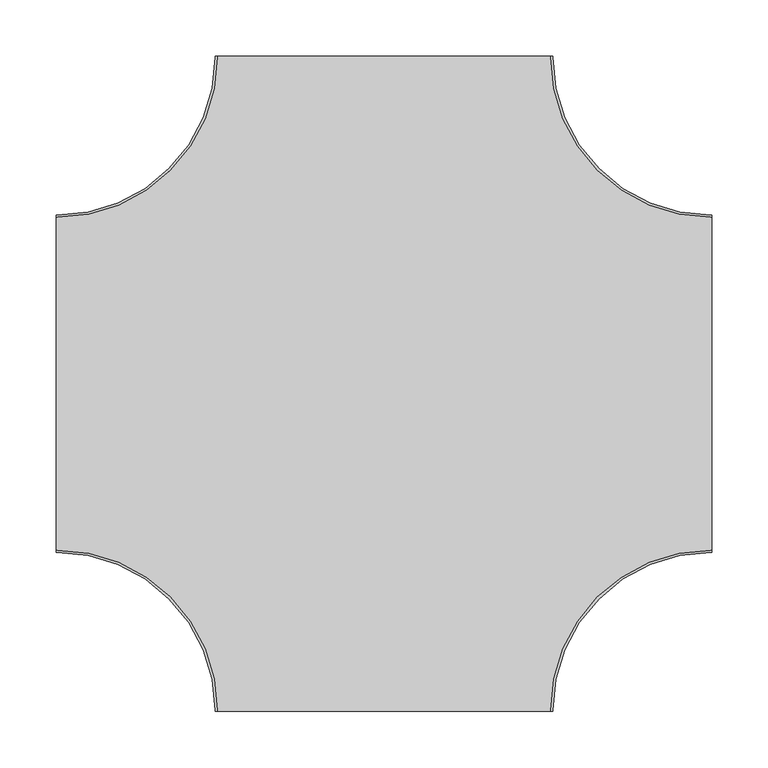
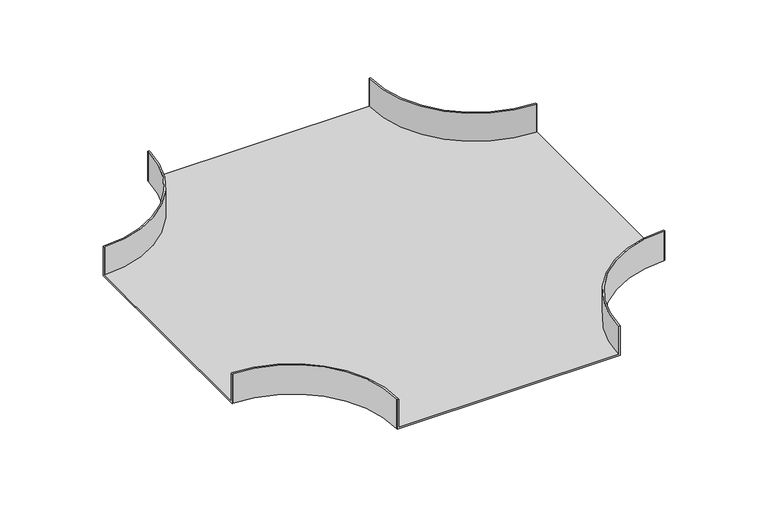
"""IFC4 building model written with IfcOpenShell, lengths in millimetres: cable carrier fitting geometry, BAKS_Horizontal cross over radius : CZKPJ_H42."""

from ifc_helpers import new_model, si_unit, frame, origin, place, context, project, spatial, polyline, circle_curve, source, transform, mapped, element, save
from ifc_brep_helpers import plane_surface, cylinder_surface, revolved_surface, advanced_brep


def cable_carrier_fitting_5d3ac796(model_context):
    return source(origin(), model_context, "Body", "AdvancedBrep", [
        advanced_brep(
        [(-150.0, -290.0, 21.0), (-150.0, -291.0, 21.0), (-148.0, -291.0, 21.0), (-148.0, -290.0, 21.0), (-290.0, -148.0, 21.0), (-291.0, -148.0, 21.0), (-291.0, -150.0, 21.0), (-290.0, -150.0, 21.0), (150.0, -290.0, 21.0), (290.0, -150.0, 21.0), (291.0, -150.0, 21.0), (291.0, -148.0, 21.0), (290.0, -148.0, 21.0), (148.0, -290.0, 21.0), (148.0, -291.0, 21.0), (150.0, -291.0, 21.0), (-290.0, 150.0, 21.0), (-291.0, 150.0, 21.0), (-291.0, 148.0, 21.0), (-290.0, 148.0, 21.0), (-148.0, 290.0, 21.0), (-148.0, 291.0, 21.0), (-150.0, 291.0, 21.0), (-150.0, 290.0, 21.0), (148.0, 290.0, 21.0), (290.0, 148.0, 21.0), (291.0, 148.0, 21.0), (291.0, 150.0, 21.0), (290.0, 150.0, 21.0), (150.0, 290.0, 21.0), (150.0, 291.0, 21.0), (148.0, 291.0, 21.0), (-150.0, -290.0, -21.0), (-290.0, -150.0, -21.0), (-291.0, -150.0, -21.0), (-291.0, 150.0, -21.0), (-290.0, 150.0, -21.0), (-150.0, 290.0, -21.0), (-150.0, 291.0, -21.0), (150.0, 291.0, -21.0), (150.0, 290.0, -21.0), (290.0, 150.0, -21.0), (291.0, 150.0, -21.0), (291.0, -150.0, -21.0), (290.0, -150.0, -21.0), (150.0, -290.0, -21.0), (150.0, -291.0, -21.0), (-150.0, -291.0, -21.0), (-150.0, -290.0, -19.0), (148.0, -291.0, -19.0), (-148.0, -291.0, -19.0), (-148.0, -290.0, -19.0), (-290.0, -148.0, -19.0), (-291.0, -148.0, -19.0), (-291.0, 148.0, -19.0), (-290.0, -150.0, -19.0), (150.0, -290.0, -19.0), (290.0, -150.0, -19.0), (291.0, 148.0, -19.0), (291.0, -148.0, -19.0), (290.0, -148.0, -19.0), (148.0, -290.0, -19.0), (290.0, 148.0, -19.0), (148.0, 290.0, -19.0), (148.0, 291.0, -19.0), (-148.0, 291.0, -19.0), (-148.0, 290.0, -19.0), (-290.0, 148.0, -19.0), (-290.0, 150.0, -19.0), (-150.0, 290.0, -19.0), (290.0, 150.0, -19.0), (150.0, 290.0, -19.0)],
        [
            (0, 1),
            (1, 2),
            (2, 3),
            (3, 4, circle_curve(frame((-290.0, -290.0, 21.0), z_axis=(0.0, 0.0, 1.0), x_axis=(1.0, 0.0, 0.0)), 142.0)),
            (4, 5),
            (5, 6),
            (6, 7),
            (7, 0, circle_curve(frame((-290.0, -290.0, 21.0), z_axis=(0.0, 0.0, -1.0), x_axis=(1.0, 0.0, 0.0)), 140.0)),
            (8, 9, circle_curve(frame((290.0, -290.0, 21.0), z_axis=(0.0, 0.0, -1.0), x_axis=(1.0, 0.0, 0.0)), 140.0)),
            (9, 10),
            (10, 11),
            (11, 12),
            (12, 13, circle_curve(frame((290.0, -290.0, 21.0), z_axis=(0.0, 0.0, 1.0), x_axis=(1.0, 0.0, 0.0)), 142.0)),
            (13, 14),
            (14, 15),
            (15, 8),
            (16, 17),
            (17, 18),
            (18, 19),
            (19, 20, circle_curve(frame((-290.0, 290.0, 21.0), z_axis=(0.0, 0.0, 1.0), x_axis=(1.0, 0.0, 0.0)), 142.0)),
            (20, 21),
            (21, 22),
            (22, 23),
            (23, 16, circle_curve(frame((-290.0, 290.0, 21.0), z_axis=(0.0, 0.0, -1.0), x_axis=(1.0, 0.0, 0.0)), 140.0)),
            (24, 25, circle_curve(frame((290.0, 290.0, 21.0), z_axis=(0.0, 0.0, 1.0), x_axis=(1.0, 0.0, 0.0)), 142.0)),
            (25, 26),
            (26, 27),
            (27, 28),
            (28, 29, circle_curve(frame((290.0, 290.0, 21.0), z_axis=(0.0, 0.0, -1.0), x_axis=(1.0, 0.0, 0.0)), 140.0)),
            (29, 30),
            (30, 31),
            (31, 24),
            (32, 33, circle_curve(frame((-290.0, -290.0, -21.0), z_axis=(0.0, 0.0, 1.0), x_axis=(1.0, 0.0, 0.0)), 140.0)),
            (33, 34),
            (34, 35),
            (35, 36),
            (36, 37, circle_curve(frame((-290.0, 290.0, -21.0), z_axis=(0.0, 0.0, 1.0), x_axis=(1.0, 0.0, 0.0)), 140.0)),
            (37, 38),
            (38, 39),
            (39, 40),
            (40, 41, circle_curve(frame((290.0, 290.0, -21.0), z_axis=(0.0, 0.0, 1.0), x_axis=(1.0, 0.0, 0.0)), 140.0)),
            (41, 42),
            (42, 43),
            (43, 44),
            (44, 45, circle_curve(frame((290.0, -290.0, -21.0), z_axis=(0.0, 0.0, 1.0), x_axis=(1.0, 0.0, 0.0)), 140.0)),
            (45, 46),
            (46, 47),
            (47, 32),
            (47, 1),
            (0, 48),
            (48, 32),
            (46, 15),
            (14, 49),
            (49, 50),
            (50, 2),
            (50, 51),
            (51, 3),
            (51, 52, circle_curve(frame((-290.0, -290.0, -19.0), z_axis=(0.0, 0.0, 1.0), x_axis=(1.0, 0.0, 0.0)), 142.0)),
            (52, 4),
            (52, 53),
            (53, 5),
            (53, 54),
            (54, 18),
            (17, 35),
            (34, 6),
            (33, 55),
            (55, 7),
            (8, 56),
            (56, 45),
            (44, 57),
            (57, 9),
            (43, 10),
            (42, 27),
            (26, 58),
            (58, 59),
            (59, 11),
            (59, 60),
            (60, 12),
            (60, 61, circle_curve(frame((290.0, -290.0, -19.0), z_axis=(0.0, 0.0, 1.0), x_axis=(1.0, 0.0, 0.0)), 142.0)),
            (61, 13),
            (61, 49),
            (58, 62),
            (62, 63, circle_curve(frame((290.0, 290.0, -19.0), z_axis=(0.0, 0.0, -1.0), x_axis=(1.0, 0.0, 0.0)), 142.0)),
            (63, 64),
            (64, 65),
            (65, 66),
            (66, 67, circle_curve(frame((-290.0, 290.0, -19.0), z_axis=(0.0, 0.0, -1.0), x_axis=(1.0, 0.0, 0.0)), 142.0)),
            (67, 54),
            (16, 68),
            (68, 36),
            (67, 19),
            (66, 20),
            (65, 21),
            (64, 31),
            (30, 39),
            (38, 22),
            (37, 69),
            (69, 23),
            (24, 63),
            (62, 25),
            (41, 70),
            (70, 28),
            (40, 71),
            (71, 29),
        ],
        [
            plane_surface(frame((-150.0, -290.0, 21.0), z_axis=(0.0, 0.0, 1.0), x_axis=(0.0, -1.0, 0.0))),
            plane_surface(frame((-150.0, -290.0, -21.0), z_axis=(0.0, 0.0, -1.0), x_axis=(0.0, 1.0, 0.0))),
            plane_surface(frame((-150.0, -290.0, 21.0), z_axis=(-1.0, 0.0, 0.0), x_axis=(0.0, 0.0, -1.0))),
            plane_surface(frame((-150.0, -291.0, 21.0), z_axis=(0.0, -1.0, 0.0), x_axis=(0.0, 0.0, -1.0))),
            plane_surface(frame((-148.0, -291.0, 21.0), z_axis=(1.0, 0.0, 0.0), x_axis=(0.0, 0.0, -1.0))),
            cylinder_surface(frame((-290.0, -290.0, -21.0), z_axis=(0.0, 0.0, 1.0), x_axis=(1.0, 0.0, 0.0)), 142.0),
            plane_surface(frame((-290.0, -148.0, 21.0), z_axis=(0.0, 1.0, 0.0), x_axis=(0.0, 0.0, -1.0))),
            plane_surface(frame((-291.0, -148.0, 21.0), z_axis=(-1.0, 0.0, 0.0), x_axis=(0.0, 0.0, -1.0))),
            plane_surface(frame((-291.0, -150.0, 21.0), z_axis=(2.7410074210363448e-12, -1.0, 0.0), x_axis=(0.0, 0.0, -1.0))),
            revolved_surface(polyline([(-150.0, -290.0, -21.0), (-150.0, -290.0, 21.0)]), (-290.0, -290.0, -21.0), (0.0, 0.0, -1.0)),
            revolved_surface(polyline([(430.0, -290.0, -21.0), (430.0, -290.0, 21.0)]), (290.0, -290.0, 0.0), (0.0, 0.0, -1.0)),
            plane_surface(frame((290.0, -150.0, 21.0), z_axis=(-2.7410074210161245e-12, -1.0, 0.0), x_axis=(0.0, 0.0, -1.0))),
            plane_surface(frame((291.0, -150.0, 21.0), z_axis=(1.0, 0.0, 0.0), x_axis=(0.0, 0.0, -1.0))),
            plane_surface(frame((291.0, -148.0, 21.0), z_axis=(0.0, 1.0, 0.0), x_axis=(0.0, 0.0, -1.0))),
            cylinder_surface(frame((290.0, -290.0, 0.0), z_axis=(0.0, 0.0, 1.0), x_axis=(1.0, 0.0, 0.0)), 142.0),
            plane_surface(frame((148.0, -290.0, 21.0), z_axis=(-1.0, 0.0, 0.0), x_axis=(0.0, 0.0, -1.0))),
            plane_surface(frame((150.0, -291.0, 21.0), z_axis=(1.0, 0.0, 0.0), x_axis=(0.0, 0.0, -1.0))),
            plane_surface(frame((-150.0, -290.0, -19.0), z_axis=(0.0, 0.0, 1.0), x_axis=(1.3705037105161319e-12, -1.0, 0.0))),
            plane_surface(frame((-290.0, 150.0, 21.0), z_axis=(3.632680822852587e-11, 1.0, 0.0), x_axis=(0.0, 0.0, -1.0))),
            plane_surface(frame((-291.0, 148.0, 21.0), z_axis=(-3.884785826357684e-11, -1.0, 0.0), x_axis=(0.0, 0.0, -1.0))),
            cylinder_surface(frame((-290.0, 290.0, 0.0), z_axis=(0.0, 0.0, 1.0), x_axis=(1.0, 0.0, 0.0)), 142.0),
            plane_surface(frame((-148.0, 290.0, 21.0), z_axis=(1.0, -1.6243006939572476e-12, 0.0), x_axis=(0.0, 0.0, -1.0))),
            plane_surface(frame((-148.0, 291.0, 21.0), z_axis=(0.0, 1.0, 0.0), x_axis=(0.0, 0.0, -1.0))),
            plane_surface(frame((-150.0, 291.0, 21.0), z_axis=(-1.0, 1.3705037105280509e-12, 0.0), x_axis=(0.0, 0.0, -1.0))),
            revolved_surface(polyline([(-150.0, 290.0, -21.0), (-150.0, 290.0, 21.0)]), (-290.0, 290.0, 0.0), (0.0, 0.0, -1.0)),
            cylinder_surface(frame((290.0, 290.0, 0.0), z_axis=(0.0, 0.0, 1.0), x_axis=(1.0, 0.0, 0.0)), 142.0),
            plane_surface(frame((290.0, 148.0, 21.0), z_axis=(0.0, -1.0, 0.0), x_axis=(0.0, 0.0, -1.0))),
            plane_surface(frame((291.0, 150.0, 21.0), z_axis=(0.0, 1.0, 0.0), x_axis=(0.0, 0.0, -1.0))),
            revolved_surface(polyline([(430.0, 290.0, -21.0), (430.0, 290.0, 21.0)]), (290.0, 290.0, 0.0), (0.0, 0.0, -1.0)),
            plane_surface(frame((150.0, 290.0, 21.0), z_axis=(1.0, 1.6496803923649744e-11, 0.0), x_axis=(0.0, 0.0, -1.0))),
            plane_surface(frame((148.0, 291.0, 21.0), z_axis=(-1.0, -1.715667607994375e-11, 0.0), x_axis=(0.0, 0.0, -1.0))),
        ],
        [
            (0, [[1, 2, 3, 4, 5, 6, 7, 8]]),
            (0, [[9, 10, 11, 12, 13, 14, 15, 16]]),
            (0, [[17, 18, 19, 20, 21, 22, 23, 24]]),
            (0, [[25, 26, 27, 28, 29, 30, 31, 32]]),
            (1, [[33, 34, 35, 36, 37, 38, 39, 40, 41, 42, 43, 44, 45, 46, 47, 48]]),
            (2, [[49, -1, 50, 51, -48]]),
            (3, [[-2, -49, -47, 52, -15, 53, 54, 55]]),
            (4, [[-3, -55, 56, 57]]),
            (5, [[-4, -57, 58, 59]]),
            (6, [[-5, -59, 60, 61]]),
            (7, [[-6, -61, 62, 63, -18, 64, -35, 65]]),
            (8, [[-7, -65, -34, 66, 67]]),
            (9, [[-8, -67, -66, -33, -51, -50]]),
            (10, [[-9, 68, 69, -45, 70, 71]]),
            (11, [[72, -10, -71, -70, -44]]),
            (12, [[-11, -72, -43, 73, -27, 74, 75, 76]]),
            (13, [[-12, -76, 77, 78]]),
            (14, [[-13, -78, 79, 80]]),
            (15, [[-14, -80, 81, -53]]),
            (16, [[-16, -52, -46, -69, -68]]),
            (17, [[-54, -81, -79, -77, -75, 82, 83, 84, 85, 86, 87, 88, -62, -60, -58, -56]]),
            (18, [[-64, -17, 89, 90, -36]]),
            (19, [[-19, -63, -88, 91]]),
            (20, [[-20, -91, -87, 92]]),
            (21, [[-21, -92, -86, 93]]),
            (22, [[-22, -93, -85, 94, -31, 95, -39, 96]]),
            (23, [[-23, -96, -38, 97, 98]]),
            (24, [[-24, -98, -97, -37, -90, -89]]),
            (25, [[-25, 99, -83, 100]]),
            (26, [[-26, -100, -82, -74]]),
            (27, [[-28, -73, -42, 101, 102]]),
            (28, [[-29, -102, -101, -41, 103, 104]]),
            (29, [[-95, -30, -104, -103, -40]]),
            (30, [[-32, -94, -84, -99]]),
        ],
    ),
    ])


if __name__ == "__main__":
    model = new_model("IFC4")
    model_context = context("Model", 3, world=origin())
    ifc_project = project(units=[si_unit("LENGTHUNIT", "METRE", prefix="MILLI")], contexts=[model_context])
    site = spatial("IfcSite", under=ifc_project)
    building = spatial("IfcBuilding", under=site)
    placement = place(None, origin())
    cable_carrier_fitting_shape = cable_carrier_fitting_5d3ac796(model_context)
    element("IfcCableCarrierFitting", 1, ObjectType="BAKS_Horizontal cross over radius : CZKPJ_H42", at=placement, inside=building, context=model_context, shape_type="MappedRepresentation", body=[
        mapped(cable_carrier_fitting_shape, transform((0.0, 0.0, 0.0), x_axis=(1.0, 0.0, 0.0), y_axis=(0.0, 1.0, 0.0), z_axis=(0.0, 0.0, 1.0))),
    ])
    save(model, "model.ifc")
